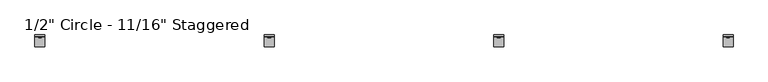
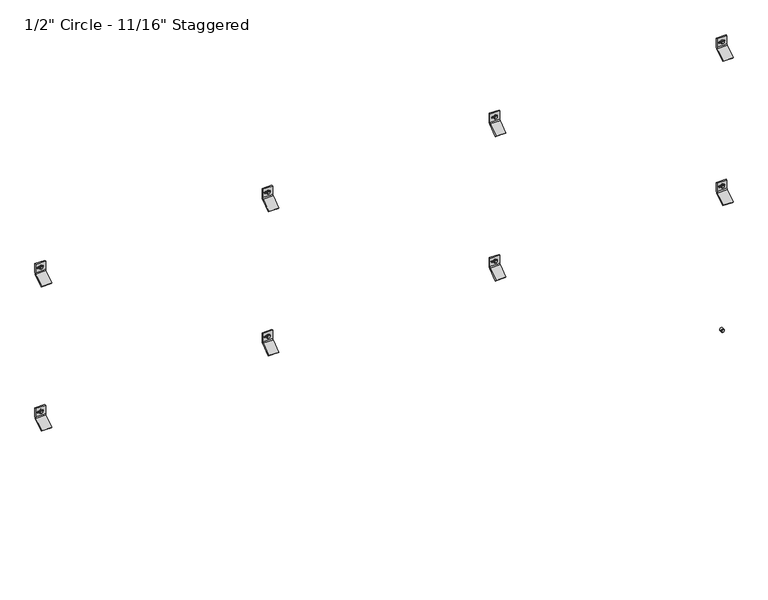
"""IFC4 building model written with IfcOpenShell, lengths in millimetres: plate geometry."""

from ifc_helpers import new_model, si_unit, point, frame, frame_2d, origin, place, context, project, spatial, polyline, circle_curve, trimmed, segment, composite_curve, outline, extrude, source, transform, mapped, element, save
from ifc_brep_helpers import plane_surface, cylinder_surface, revolved_surface, advanced_brep


def plate_f7e0e17a(model_context):
    return source(origin(), model_context, "Body", "SolidModel", [
        extrude(outline(polyline([(1923.7554341, 1299.9070034), (1919.4097216, 1302.4160017), (1919.4097216, 1307.4339983), (1923.7554341, 1309.9429966), (1928.1011466, 1307.4339983), (1928.1011466, 1302.4160017), (1923.7554341, 1299.9070034)])), frame((0.0, -58.7607779, 0.0), z_axis=(0.0, 1.0, 0.0), x_axis=(0.0, 0.0, 1.0)), (0.0, 0.0, 1.0), 11.1357779),
        extrude(outline(composite_curve([segment(trimmed(circle_curve(frame_2d((1923.8487411, 1304.925)), 6.35), [point((1923.8487411, 1311.275))], [point((1923.8487411, 1298.575))], False, "CARTESIAN"), True, "CONTINUOUS"), segment(trimmed(circle_curve(frame_2d((1923.8487411, 1304.925)), 6.35), [point((1923.8487411, 1298.575))], [point((1923.8487411, 1311.275))], False, "CARTESIAN"), True, "CONTINUOUS")], self_intersect=False)), frame((0.0, -57.0817743, 0.0), z_axis=(0.0, 1.0, 0.0), x_axis=(0.0, 0.0, 1.0)), (0.0, 0.0, 1.0), 9.4567743),
        advanced_brep(
        [(1285.875, -47.625, 1906.606122), (1285.875, -51.2819443, 1898.9440896), (1285.875, -89.5163624, 1872.1720618), (1285.875, -92.9330442, 1875.5887436), (1285.875, -54.3526876, 1902.6030001), (1285.875, -52.4002, 1906.6061929), (1285.875, -52.4002, 1940.7988072), (1285.875, -47.625, 1940.7988072), (1323.975, -47.625, 1906.606122), (1323.975, -47.625, 1940.7988072), (1323.975, -52.4002, 1940.7988072), (1323.975, -52.4002, 1906.6061929), (1323.975, -54.3526876, 1902.6030001), (1323.975, -92.9330442, 1875.5887436), (1323.975, -89.5163624, 1872.1720618), (1323.975, -51.2819443, 1898.9440896), (1311.6661889, -52.4002, 1926.753591), (1311.6661889, -52.4002, 1920.403591), (1295.4383287, -52.4002, 1920.403591), (1295.4383287, -52.4002, 1926.753591), (1311.6661889, -47.625, 1920.403591), (1311.6661889, -47.625, 1926.753591), (1295.4383287, -47.625, 1926.753591), (1295.4383287, -47.625, 1920.403591)],
        [
            (0, 1, circle_curve(frame((1285.875, -57.4802202, 1906.606122), z_axis=(-1.0, 0.0, 0.0), x_axis=(0.0, -1.0, 0.0)), 9.8552202)),
            (1, 2),
            (2, 3),
            (3, 4),
            (4, 5, circle_curve(frame((1285.875, -57.4803246, 1906.6061929), z_axis=(1.0, 0.0, 0.0), x_axis=(0.0, -1.0, 0.0)), 5.0801246)),
            (5, 6),
            (6, 7),
            (7, 0),
            (8, 9),
            (9, 10),
            (10, 11),
            (11, 12, circle_curve(frame((1323.975, -57.4803246, 1906.6061929), z_axis=(-1.0, 0.0, 0.0), x_axis=(0.0, -1.0, 0.0)), 5.0801246)),
            (12, 13),
            (13, 14),
            (14, 15),
            (15, 8, circle_curve(frame((1323.975, -57.4802202, 1906.606122), z_axis=(1.0, 0.0, 0.0), x_axis=(0.0, -1.0, 0.0)), 9.8552202)),
            (4, 12),
            (11, 5),
            (10, 6),
            (16, 17, circle_curve(frame((1311.6661889, -52.4002, 1923.578591), z_axis=(0.0, 1.0, 0.0), x_axis=(0.0, 0.0, -1.0)), 3.175)),
            (17, 18),
            (18, 19, circle_curve(frame((1295.4383287, -52.4002, 1923.578591), z_axis=(0.0, 1.0, 0.0), x_axis=(0.0, 0.0, -1.0)), 3.175)),
            (19, 16),
            (9, 7),
            (8, 0),
            (20, 21, circle_curve(frame((1311.6661889, -47.625, 1923.578591), z_axis=(0.0, -1.0, 0.0), x_axis=(0.0, 0.0, -1.0)), 3.175)),
            (21, 22),
            (22, 23, circle_curve(frame((1295.4383287, -47.625, 1923.578591), z_axis=(0.0, -1.0, 0.0), x_axis=(0.0, 0.0, -1.0)), 3.175)),
            (23, 20),
            (15, 1),
            (20, 17),
            (16, 21),
            (19, 22),
            (18, 23),
            (14, 2),
            (13, 3),
        ],
        [
            plane_surface(frame((1285.875, -67.3354404, 1906.606122), z_axis=(-1.0, 0.0, 0.0), x_axis=(0.0, 0.0, 1.0))),
            plane_surface(frame((1323.975, -67.3354404, 1906.606122), z_axis=(1.0, 0.0, 0.0), x_axis=(0.0, 0.0, -1.0))),
            revolved_surface(polyline([(1323.975, -62.5604492, 1906.6061929), (1285.875, -62.5604492, 1906.6061929)]), (1323.975, -57.4803246, 1906.6061929), (1.0, 0.0, 0.0)),
            plane_surface(frame((1285.875, -52.4002, 1906.6061929), z_axis=(0.0, -1.0, 0.0), x_axis=(1.0, 0.0, 0.0))),
            plane_surface(frame((1285.875, -52.4002, 1940.7988072), z_axis=(0.0, 0.0, 1.0), x_axis=(1.0, 0.0, 0.0))),
            plane_surface(frame((1285.875, -47.625, 1940.7988072), z_axis=(0.0, 1.0, 6.99569853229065e-12), x_axis=(1.0, 0.0, 0.0))),
            cylinder_surface(frame((1323.975, -57.4802202, 1906.606122), z_axis=(-1.0, 0.0, 0.0), x_axis=(0.0, -1.0, 0.0)), 9.8552202),
            revolved_surface(polyline([(1311.6661889, -52.4002, 1920.403591), (1311.6661889, -47.625, 1920.403591)]), (1311.6661889, -25.6669948, 1923.578591), (0.0, -1.0, 0.0)),
            plane_surface(frame((1311.6661889, -86.677982, 1926.753591), z_axis=(0.0, 0.0, -1.0), x_axis=(0.0, 1.0, 0.0))),
            revolved_surface(polyline([(1295.4383287, -52.4002, 1920.403591), (1295.4383287, -47.625, 1920.403591)]), (1295.4383287, -25.6669948, 1923.578591), (0.0, -1.0, 0.0)),
            plane_surface(frame((1295.4383287, -86.677982, 1920.403591), z_axis=(-2.7237720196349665e-11, 0.0, 1.0), x_axis=(0.0, 1.0, 0.0))),
            plane_surface(frame((1285.875, -51.2819443, 1898.9440896), z_axis=(0.0, 0.5735764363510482, -0.8191520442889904), x_axis=(1.0, 0.0, 0.0))),
            plane_surface(frame((1285.875, -89.5163624, 1872.1720618), z_axis=(0.0, -0.7071067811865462, -0.7071067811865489), x_axis=(1.0, 0.0, 0.0))),
            plane_surface(frame((1285.875, -92.9330442, 1875.5887436), z_axis=(0.0, -0.5735764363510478, 0.8191520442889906), x_axis=(1.0, 0.0, 0.0))),
        ],
        [
            (0, [[1, 2, 3, 4, 5, 6, 7, 8]]),
            (1, [[9, 10, 11, 12, 13, 14, 15, 16]]),
            (2, [[-5, 17, -12, 18]]),
            (3, [[-6, -18, -11, 19], [20, 21, 22, 23]]),
            (4, [[-7, -19, -10, 24]]),
            (5, [[-8, -24, -9, 25], [26, 27, 28, 29]]),
            (6, [[-1, -25, -16, 30]]),
            (7, [[31, -20, 32, -26]]),
            (8, [[-32, -23, 33, -27]]),
            (9, [[-33, -22, 34, -28]]),
            (10, [[-31, -29, -34, -21]]),
            (11, [[-2, -30, -15, 35]]),
            (12, [[-3, -35, -14, 36]]),
            (13, [[-4, -36, -13, -17]]),
        ],
    ),
        extrude(outline(polyline([(1923.7554341, 429.9570034), (1919.4097216, 432.4660017), (1919.4097216, 437.4839983), (1923.7554341, 439.9929966), (1928.1011466, 437.4839983), (1928.1011466, 432.4660017), (1923.7554341, 429.9570034)])), frame((0.0, -58.7607779, 0.0), z_axis=(0.0, 1.0, 0.0), x_axis=(0.0, 0.0, 1.0)), (0.0, 0.0, 1.0), 11.1357779),
        extrude(outline(composite_curve([segment(trimmed(circle_curve(frame_2d((1923.8487411, 434.975)), 6.35), [point((1923.8487411, 441.325))], [point((1923.8487411, 428.625))], False, "CARTESIAN"), True, "CONTINUOUS"), segment(trimmed(circle_curve(frame_2d((1923.8487411, 434.975)), 6.35), [point((1923.8487411, 428.625))], [point((1923.8487411, 441.325))], False, "CARTESIAN"), True, "CONTINUOUS")], self_intersect=False)), frame((0.0, -57.0817743, 0.0), z_axis=(0.0, 1.0, 0.0), x_axis=(0.0, 0.0, 1.0)), (0.0, 0.0, 1.0), 9.4567743),
        advanced_brep(
        [(415.925, -47.625, 1906.606122), (415.925, -51.2819443, 1898.9440896), (415.925, -89.5163624, 1872.1720618), (415.925, -92.9330442, 1875.5887436), (415.925, -54.3526876, 1902.6030001), (415.925, -52.4002, 1906.6061929), (415.925, -52.4002, 1940.7988072), (415.925, -47.625, 1940.7988072), (454.025, -47.625, 1906.606122), (454.025, -47.625, 1940.7988072), (454.025, -52.4002, 1940.7988072), (454.025, -52.4002, 1906.6061929), (454.025, -54.3526876, 1902.6030001), (454.025, -92.9330442, 1875.5887436), (454.025, -89.5163624, 1872.1720618), (454.025, -51.2819443, 1898.9440896), (441.7161889, -52.4002, 1926.753591), (441.7161889, -52.4002, 1920.403591), (425.4883287, -52.4002, 1920.403591), (425.4883287, -52.4002, 1926.753591), (441.7161889, -47.625, 1920.403591), (441.7161889, -47.625, 1926.753591), (425.4883287, -47.625, 1926.753591), (425.4883287, -47.625, 1920.403591)],
        [
            (0, 1, circle_curve(frame((415.925, -57.4802202, 1906.606122), z_axis=(-1.0, 0.0, 0.0), x_axis=(0.0, -1.0, 0.0)), 9.8552202)),
            (1, 2),
            (2, 3),
            (3, 4),
            (4, 5, circle_curve(frame((415.925, -57.4803246, 1906.6061929), z_axis=(1.0, 0.0, 0.0), x_axis=(0.0, -1.0, 0.0)), 5.0801246)),
            (5, 6),
            (6, 7),
            (7, 0),
            (8, 9),
            (9, 10),
            (10, 11),
            (11, 12, circle_curve(frame((454.025, -57.4803246, 1906.6061929), z_axis=(-1.0, 0.0, 0.0), x_axis=(0.0, -1.0, 0.0)), 5.0801246)),
            (12, 13),
            (13, 14),
            (14, 15),
            (15, 8, circle_curve(frame((454.025, -57.4802202, 1906.606122), z_axis=(1.0, 0.0, 0.0), x_axis=(0.0, -1.0, 0.0)), 9.8552202)),
            (4, 12),
            (11, 5),
            (10, 6),
            (16, 17, circle_curve(frame((441.7161889, -52.4002, 1923.578591), z_axis=(0.0, 1.0, 0.0), x_axis=(0.0, 0.0, -1.0)), 3.175)),
            (17, 18),
            (18, 19, circle_curve(frame((425.4883287, -52.4002, 1923.578591), z_axis=(0.0, 1.0, 0.0), x_axis=(0.0, 0.0, -1.0)), 3.175)),
            (19, 16),
            (9, 7),
            (8, 0),
            (20, 21, circle_curve(frame((441.7161889, -47.625, 1923.578591), z_axis=(0.0, -1.0, 0.0), x_axis=(0.0, 0.0, -1.0)), 3.175)),
            (21, 22),
            (22, 23, circle_curve(frame((425.4883287, -47.625, 1923.578591), z_axis=(0.0, -1.0, 0.0), x_axis=(0.0, 0.0, -1.0)), 3.175)),
            (23, 20),
            (15, 1),
            (20, 17),
            (16, 21),
            (19, 22),
            (18, 23),
            (14, 2),
            (13, 3),
        ],
        [
            plane_surface(frame((415.925, -67.3354404, 1906.606122), z_axis=(-1.0, 0.0, 0.0), x_axis=(0.0, 0.0, 1.0))),
            plane_surface(frame((454.025, -67.3354404, 1906.606122), z_axis=(1.0, 0.0, 0.0), x_axis=(0.0, 0.0, -1.0))),
            revolved_surface(polyline([(454.025, -62.5604492, 1906.6061929), (415.925, -62.5604492, 1906.6061929)]), (454.025, -57.4803246, 1906.6061929), (1.0, 0.0, 0.0)),
            plane_surface(frame((415.925, -52.4002, 1906.6061929), z_axis=(0.0, -1.0, 0.0), x_axis=(1.0, 0.0, 0.0))),
            plane_surface(frame((415.925, -52.4002, 1940.7988072), z_axis=(0.0, 0.0, 1.0), x_axis=(1.0, 0.0, 0.0))),
            plane_surface(frame((415.925, -47.625, 1940.7988072), z_axis=(0.0, 1.0, 6.99569853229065e-12), x_axis=(1.0, 0.0, 0.0))),
            cylinder_surface(frame((454.025, -57.4802202, 1906.606122), z_axis=(-1.0, 0.0, 0.0), x_axis=(0.0, -1.0, 0.0)), 9.8552202),
            revolved_surface(polyline([(441.7161889, -52.4002, 1920.403591), (441.7161889, -47.625, 1920.403591)]), (441.7161889, -25.6669948, 1923.578591), (0.0, -1.0, 0.0)),
            plane_surface(frame((441.7161889, -86.677982, 1926.753591), z_axis=(0.0, 0.0, -1.0), x_axis=(0.0, 1.0, 0.0))),
            revolved_surface(polyline([(425.4883287, -52.4002, 1920.403591), (425.4883287, -47.625, 1920.403591)]), (425.4883287, -25.6669948, 1923.578591), (0.0, -1.0, 0.0)),
            plane_surface(frame((425.4883287, -86.677982, 1920.403591), z_axis=(-2.7237720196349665e-11, 0.0, 1.0), x_axis=(0.0, 1.0, 0.0))),
            plane_surface(frame((415.925, -51.2819443, 1898.9440896), z_axis=(0.0, 0.5735764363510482, -0.8191520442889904), x_axis=(1.0, 0.0, 0.0))),
            plane_surface(frame((415.925, -89.5163624, 1872.1720618), z_axis=(0.0, -0.7071067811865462, -0.7071067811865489), x_axis=(1.0, 0.0, 0.0))),
            plane_surface(frame((415.925, -92.9330442, 1875.5887436), z_axis=(0.0, -0.5735764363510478, 0.8191520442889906), x_axis=(1.0, 0.0, 0.0))),
        ],
        [
            (0, [[1, 2, 3, 4, 5, 6, 7, 8]]),
            (1, [[9, 10, 11, 12, 13, 14, 15, 16]]),
            (2, [[-5, 17, -12, 18]]),
            (3, [[-6, -18, -11, 19], [20, 21, 22, 23]]),
            (4, [[-7, -19, -10, 24]]),
            (5, [[-8, -24, -9, 25], [26, 27, 28, 29]]),
            (6, [[-1, -25, -16, 30]]),
            (7, [[31, -20, 32, -26]]),
            (8, [[-32, -23, 33, -27]]),
            (9, [[-33, -22, 34, -28]]),
            (10, [[-31, -29, -34, -21]]),
            (11, [[-2, -30, -15, 35]]),
            (12, [[-3, -35, -14, 36]]),
            (13, [[-4, -36, -13, -17]]),
        ],
    ),
        extrude(outline(polyline([(1923.7554341, -439.9929966), (1919.4097216, -437.4839983), (1919.4097216, -432.4660017), (1923.7554341, -429.9570034), (1928.1011466, -432.4660017), (1928.1011466, -437.4839983), (1923.7554341, -439.9929966)])), frame((0.0, -58.7607779, 0.0), z_axis=(0.0, 1.0, 0.0), x_axis=(0.0, 0.0, 1.0)), (0.0, 0.0, 1.0), 11.1357779),
        extrude(outline(composite_curve([segment(trimmed(circle_curve(frame_2d((1923.8487411, -434.975)), 6.35), [point((1923.8487411, -428.625))], [point((1923.8487411, -441.325))], False, "CARTESIAN"), True, "CONTINUOUS"), segment(trimmed(circle_curve(frame_2d((1923.8487411, -434.975)), 6.35), [point((1923.8487411, -441.325))], [point((1923.8487411, -428.625))], False, "CARTESIAN"), True, "CONTINUOUS")], self_intersect=False)), frame((0.0, -57.0817743, 0.0), z_axis=(0.0, 1.0, 0.0), x_axis=(0.0, 0.0, 1.0)), (0.0, 0.0, 1.0), 9.4567743),
        advanced_brep(
        [(-454.025, -47.625, 1906.606122), (-454.025, -51.2819443, 1898.9440896), (-454.025, -89.5163624, 1872.1720618), (-454.025, -92.9330442, 1875.5887436), (-454.025, -54.3526876, 1902.6030001), (-454.025, -52.4002, 1906.6061929), (-454.025, -52.4002, 1940.7988072), (-454.025, -47.625, 1940.7988072), (-415.925, -47.625, 1906.606122), (-415.925, -47.625, 1940.7988072), (-415.925, -52.4002, 1940.7988072), (-415.925, -52.4002, 1906.6061929), (-415.925, -54.3526876, 1902.6030001), (-415.925, -92.9330442, 1875.5887436), (-415.925, -89.5163624, 1872.1720618), (-415.925, -51.2819443, 1898.9440896), (-428.2338111, -52.4002, 1926.753591), (-428.2338111, -52.4002, 1920.403591), (-444.4616713, -52.4002, 1920.403591), (-444.4616713, -52.4002, 1926.753591), (-428.2338111, -47.625, 1920.403591), (-428.2338111, -47.625, 1926.753591), (-444.4616713, -47.625, 1926.753591), (-444.4616713, -47.625, 1920.403591)],
        [
            (0, 1, circle_curve(frame((-454.025, -57.4802202, 1906.606122), z_axis=(-1.0, 0.0, 0.0), x_axis=(0.0, -1.0, 0.0)), 9.8552202)),
            (1, 2),
            (2, 3),
            (3, 4),
            (4, 5, circle_curve(frame((-454.025, -57.4803246, 1906.6061929), z_axis=(1.0, 0.0, 0.0), x_axis=(0.0, -1.0, 0.0)), 5.0801246)),
            (5, 6),
            (6, 7),
            (7, 0),
            (8, 9),
            (9, 10),
            (10, 11),
            (11, 12, circle_curve(frame((-415.925, -57.4803246, 1906.6061929), z_axis=(-1.0, 0.0, 0.0), x_axis=(0.0, -1.0, 0.0)), 5.0801246)),
            (12, 13),
            (13, 14),
            (14, 15),
            (15, 8, circle_curve(frame((-415.925, -57.4802202, 1906.606122), z_axis=(1.0, 0.0, 0.0), x_axis=(0.0, -1.0, 0.0)), 9.8552202)),
            (4, 12),
            (11, 5),
            (10, 6),
            (16, 17, circle_curve(frame((-428.2338111, -52.4002, 1923.578591), z_axis=(0.0, 1.0, 0.0), x_axis=(0.0, 0.0, -1.0)), 3.175)),
            (17, 18),
            (18, 19, circle_curve(frame((-444.4616713, -52.4002, 1923.578591), z_axis=(0.0, 1.0, 0.0), x_axis=(0.0, 0.0, -1.0)), 3.175)),
            (19, 16),
            (9, 7),
            (8, 0),
            (20, 21, circle_curve(frame((-428.2338111, -47.625, 1923.578591), z_axis=(0.0, -1.0, 0.0), x_axis=(0.0, 0.0, -1.0)), 3.175)),
            (21, 22),
            (22, 23, circle_curve(frame((-444.4616713, -47.625, 1923.578591), z_axis=(0.0, -1.0, 0.0), x_axis=(0.0, 0.0, -1.0)), 3.175)),
            (23, 20),
            (15, 1),
            (20, 17),
            (16, 21),
            (19, 22),
            (18, 23),
            (14, 2),
            (13, 3),
        ],
        [
            plane_surface(frame((-454.025, -67.3354404, 1906.606122), z_axis=(-1.0, 0.0, 0.0), x_axis=(0.0, 0.0, 1.0))),
            plane_surface(frame((-415.925, -67.3354404, 1906.606122), z_axis=(1.0, 0.0, 0.0), x_axis=(0.0, 0.0, -1.0))),
            revolved_surface(polyline([(-415.925, -62.5604492, 1906.6061929), (-454.025, -62.5604492, 1906.6061929)]), (-415.925, -57.4803246, 1906.6061929), (1.0, 0.0, 0.0)),
            plane_surface(frame((-454.025, -52.4002, 1906.6061929), z_axis=(0.0, -1.0, 0.0), x_axis=(1.0, 0.0, 0.0))),
            plane_surface(frame((-454.025, -52.4002, 1940.7988072), z_axis=(0.0, 0.0, 1.0), x_axis=(1.0, 0.0, 0.0))),
            plane_surface(frame((-454.025, -47.625, 1940.7988072), z_axis=(0.0, 1.0, 6.99569853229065e-12), x_axis=(1.0, 0.0, 0.0))),
            cylinder_surface(frame((-415.925, -57.4802202, 1906.606122), z_axis=(-1.0, 0.0, 0.0), x_axis=(0.0, -1.0, 0.0)), 9.8552202),
            revolved_surface(polyline([(-428.2338111, -52.4002, 1920.403591), (-428.2338111, -47.625, 1920.403591)]), (-428.2338111, -25.6669948, 1923.578591), (0.0, -1.0, 0.0)),
            plane_surface(frame((-428.2338111, -86.677982, 1926.753591), z_axis=(0.0, 0.0, -1.0), x_axis=(0.0, 1.0, 0.0))),
            revolved_surface(polyline([(-444.4616713, -52.4002, 1920.403591), (-444.4616713, -47.625, 1920.403591)]), (-444.4616713, -25.6669948, 1923.578591), (0.0, -1.0, 0.0)),
            plane_surface(frame((-444.4616713, -86.677982, 1920.403591), z_axis=(-2.7237720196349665e-11, 0.0, 1.0), x_axis=(0.0, 1.0, 0.0))),
            plane_surface(frame((-454.025, -51.2819443, 1898.9440896), z_axis=(0.0, 0.5735764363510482, -0.8191520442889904), x_axis=(1.0, 0.0, 0.0))),
            plane_surface(frame((-454.025, -89.5163624, 1872.1720618), z_axis=(0.0, -0.7071067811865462, -0.7071067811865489), x_axis=(1.0, 0.0, 0.0))),
            plane_surface(frame((-454.025, -92.9330442, 1875.5887436), z_axis=(0.0, -0.5735764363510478, 0.8191520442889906), x_axis=(1.0, 0.0, 0.0))),
        ],
        [
            (0, [[1, 2, 3, 4, 5, 6, 7, 8]]),
            (1, [[9, 10, 11, 12, 13, 14, 15, 16]]),
            (2, [[-5, 17, -12, 18]]),
            (3, [[-6, -18, -11, 19], [20, 21, 22, 23]]),
            (4, [[-7, -19, -10, 24]]),
            (5, [[-8, -24, -9, 25], [26, 27, 28, 29]]),
            (6, [[-1, -25, -16, 30]]),
            (7, [[31, -20, 32, -26]]),
            (8, [[-32, -23, 33, -27]]),
            (9, [[-33, -22, 34, -28]]),
            (10, [[-31, -29, -34, -21]]),
            (11, [[-2, -30, -15, 35]]),
            (12, [[-3, -35, -14, 36]]),
            (13, [[-4, -36, -13, -17]]),
        ],
    ),
        extrude(outline(polyline([(1923.7554341, -1309.9429966), (1919.4097216, -1307.4339983), (1919.4097216, -1302.4160017), (1923.7554341, -1299.9070034), (1928.1011466, -1302.4160017), (1928.1011466, -1307.4339983), (1923.7554341, -1309.9429966)])), frame((0.0, -58.7607779, 0.0), z_axis=(0.0, 1.0, 0.0), x_axis=(0.0, 0.0, 1.0)), (0.0, 0.0, 1.0), 11.1357779),
        extrude(outline(composite_curve([segment(trimmed(circle_curve(frame_2d((1923.8487411, -1304.925)), 6.35), [point((1923.8487411, -1298.575))], [point((1923.8487411, -1311.275))], False, "CARTESIAN"), True, "CONTINUOUS"), segment(trimmed(circle_curve(frame_2d((1923.8487411, -1304.925)), 6.35), [point((1923.8487411, -1311.275))], [point((1923.8487411, -1298.575))], False, "CARTESIAN"), True, "CONTINUOUS")], self_intersect=False)), frame((0.0, -57.0817743, 0.0), z_axis=(0.0, 1.0, 0.0), x_axis=(0.0, 0.0, 1.0)), (0.0, 0.0, 1.0), 9.4567743),
        advanced_brep(
        [(-1323.975, -47.625, 1906.606122), (-1323.975, -51.2819443, 1898.9440896), (-1323.975, -89.5163624, 1872.1720618), (-1323.975, -92.9330442, 1875.5887436), (-1323.975, -54.3526876, 1902.6030001), (-1323.975, -52.4002, 1906.6061929), (-1323.975, -52.4002, 1940.7988072), (-1323.975, -47.625, 1940.7988072), (-1285.875, -47.625, 1906.606122), (-1285.875, -47.625, 1940.7988072), (-1285.875, -52.4002, 1940.7988072), (-1285.875, -52.4002, 1906.6061929), (-1285.875, -54.3526876, 1902.6030001), (-1285.875, -92.9330442, 1875.5887436), (-1285.875, -89.5163624, 1872.1720618), (-1285.875, -51.2819443, 1898.9440896), (-1298.1838111, -52.4002, 1926.753591), (-1298.1838111, -52.4002, 1920.403591), (-1314.4116713, -52.4002, 1920.403591), (-1314.4116713, -52.4002, 1926.753591), (-1298.1838111, -47.625, 1920.403591), (-1298.1838111, -47.625, 1926.753591), (-1314.4116713, -47.625, 1926.753591), (-1314.4116713, -47.625, 1920.403591)],
        [
            (0, 1, circle_curve(frame((-1323.975, -57.4802202, 1906.606122), z_axis=(-1.0, 0.0, 0.0), x_axis=(0.0, -1.0, 0.0)), 9.8552202)),
            (1, 2),
            (2, 3),
            (3, 4),
            (4, 5, circle_curve(frame((-1323.975, -57.4803246, 1906.6061929), z_axis=(1.0, 0.0, 0.0), x_axis=(0.0, -1.0, 0.0)), 5.0801246)),
            (5, 6),
            (6, 7),
            (7, 0),
            (8, 9),
            (9, 10),
            (10, 11),
            (11, 12, circle_curve(frame((-1285.875, -57.4803246, 1906.6061929), z_axis=(-1.0, 0.0, 0.0), x_axis=(0.0, -1.0, 0.0)), 5.0801246)),
            (12, 13),
            (13, 14),
            (14, 15),
            (15, 8, circle_curve(frame((-1285.875, -57.4802202, 1906.606122), z_axis=(1.0, 0.0, 0.0), x_axis=(0.0, -1.0, 0.0)), 9.8552202)),
            (4, 12),
            (11, 5),
            (10, 6),
            (16, 17, circle_curve(frame((-1298.1838111, -52.4002, 1923.578591), z_axis=(0.0, 1.0, 0.0), x_axis=(0.0, 0.0, -1.0)), 3.175)),
            (17, 18),
            (18, 19, circle_curve(frame((-1314.4116713, -52.4002, 1923.578591), z_axis=(0.0, 1.0, 0.0), x_axis=(0.0, 0.0, -1.0)), 3.175)),
            (19, 16),
            (9, 7),
            (8, 0),
            (20, 21, circle_curve(frame((-1298.1838111, -47.625, 1923.578591), z_axis=(0.0, -1.0, 0.0), x_axis=(0.0, 0.0, -1.0)), 3.175)),
            (21, 22),
            (22, 23, circle_curve(frame((-1314.4116713, -47.625, 1923.578591), z_axis=(0.0, -1.0, 0.0), x_axis=(0.0, 0.0, -1.0)), 3.175)),
            (23, 20),
            (15, 1),
            (20, 17),
            (16, 21),
            (19, 22),
            (18, 23),
            (14, 2),
            (13, 3),
        ],
        [
            plane_surface(frame((-1323.975, -67.3354404, 1906.606122), z_axis=(-1.0, 0.0, 0.0), x_axis=(0.0, 0.0, 1.0))),
            plane_surface(frame((-1285.875, -67.3354404, 1906.606122), z_axis=(1.0, 0.0, 0.0), x_axis=(0.0, 0.0, -1.0))),
            revolved_surface(polyline([(-1285.875, -62.5604492, 1906.6061929), (-1323.975, -62.5604492, 1906.6061929)]), (-1285.875, -57.4803246, 1906.6061929), (1.0, 0.0, 0.0)),
            plane_surface(frame((-1323.975, -52.4002, 1906.6061929), z_axis=(0.0, -1.0, 0.0), x_axis=(1.0, 0.0, 0.0))),
            plane_surface(frame((-1323.975, -52.4002, 1940.7988072), z_axis=(0.0, 0.0, 1.0), x_axis=(1.0, 0.0, 0.0))),
            plane_surface(frame((-1323.975, -47.625, 1940.7988072), z_axis=(0.0, 1.0, 6.99569853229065e-12), x_axis=(1.0, 0.0, 0.0))),
            cylinder_surface(frame((-1285.875, -57.4802202, 1906.606122), z_axis=(-1.0, 0.0, 0.0), x_axis=(0.0, -1.0, 0.0)), 9.8552202),
            revolved_surface(polyline([(-1298.1838111, -52.4002, 1920.403591), (-1298.1838111, -47.625, 1920.403591)]), (-1298.1838111, -25.6669948, 1923.578591), (0.0, -1.0, 0.0)),
            plane_surface(frame((-1298.1838111, -86.677982, 1926.753591), z_axis=(0.0, 0.0, -1.0), x_axis=(0.0, 1.0, 0.0))),
            revolved_surface(polyline([(-1314.4116713, -52.4002, 1920.403591), (-1314.4116713, -47.625, 1920.403591)]), (-1314.4116713, -25.6669948, 1923.578591), (0.0, -1.0, 0.0)),
            plane_surface(frame((-1314.4116713, -86.677982, 1920.403591), z_axis=(-2.7237720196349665e-11, 0.0, 1.0), x_axis=(0.0, 1.0, 0.0))),
            plane_surface(frame((-1323.975, -51.2819443, 1898.9440896), z_axis=(0.0, 0.5735764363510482, -0.8191520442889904), x_axis=(1.0, 0.0, 0.0))),
            plane_surface(frame((-1323.975, -89.5163624, 1872.1720618), z_axis=(0.0, -0.7071067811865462, -0.7071067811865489), x_axis=(1.0, 0.0, 0.0))),
            plane_surface(frame((-1323.975, -92.9330442, 1875.5887436), z_axis=(0.0, -0.5735764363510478, 0.8191520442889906), x_axis=(1.0, 0.0, 0.0))),
        ],
        [
            (0, [[1, 2, 3, 4, 5, 6, 7, 8]]),
            (1, [[9, 10, 11, 12, 13, 14, 15, 16]]),
            (2, [[-5, 17, -12, 18]]),
            (3, [[-6, -18, -11, 19], [20, 21, 22, 23]]),
            (4, [[-7, -19, -10, 24]]),
            (5, [[-8, -24, -9, 25], [26, 27, 28, 29]]),
            (6, [[-1, -25, -16, 30]]),
            (7, [[31, -20, 32, -26]]),
            (8, [[-32, -23, 33, -27]]),
            (9, [[-33, -22, 34, -28]]),
            (10, [[-31, -29, -34, -21]]),
            (11, [[-2, -30, -15, 35]]),
            (12, [[-3, -35, -14, 36]]),
            (13, [[-4, -36, -13, -17]]),
        ],
    ),
        extrude(outline(polyline([(1339.1301335, 1299.9070034), (1334.784421, 1302.4160017), (1334.784421, 1307.4339983), (1339.1301335, 1309.9429966), (1343.475846, 1307.4339983), (1343.475846, 1302.4160017), (1339.1301335, 1299.9070034)])), frame((0.0, -58.7607779, 0.0), z_axis=(0.0, 1.0, 0.0), x_axis=(0.0, 0.0, 1.0)), (0.0, 0.0, 1.0), 11.1357779),
        extrude(outline(composite_curve([segment(trimmed(circle_curve(frame_2d((1339.2234405, 1304.925)), 6.35), [point((1339.2234405, 1311.275))], [point((1339.2234405, 1298.575))], False, "CARTESIAN"), True, "CONTINUOUS"), segment(trimmed(circle_curve(frame_2d((1339.2234405, 1304.925)), 6.35), [point((1339.2234405, 1298.575))], [point((1339.2234405, 1311.275))], False, "CARTESIAN"), True, "CONTINUOUS")], self_intersect=False)), frame((0.0, -57.0817743, 0.0), z_axis=(0.0, 1.0, 0.0), x_axis=(0.0, 0.0, 1.0)), (0.0, 0.0, 1.0), 9.4567743),
        advanced_brep(
        [(1285.875, -47.625, 1321.9808214), (1285.875, -51.2819443, 1314.318789), (1285.875, -89.5163624, 1287.5467612), (1285.875, -92.9330442, 1290.963443), (1285.875, -54.3526876, 1317.9776995), (1285.875, -52.4002, 1321.9808923), (1285.875, -52.4002, 1356.1735066), (1285.875, -47.625, 1356.1735066), (1323.975, -47.625, 1321.9808214), (1323.975, -47.625, 1356.1735066), (1323.975, -52.4002, 1356.1735066), (1323.975, -52.4002, 1321.9808923), (1323.975, -54.3526876, 1317.9776995), (1323.975, -92.9330442, 1290.963443), (1323.975, -89.5163624, 1287.5467612), (1323.975, -51.2819443, 1314.318789), (1311.6661889, -52.4002, 1342.1282903), (1311.6661889, -52.4002, 1335.7782903), (1295.4383287, -52.4002, 1335.7782903), (1295.4383287, -52.4002, 1342.1282903), (1311.6661889, -47.625, 1335.7782903), (1311.6661889, -47.625, 1342.1282903), (1295.4383287, -47.625, 1342.1282903), (1295.4383287, -47.625, 1335.7782903)],
        [
            (0, 1, circle_curve(frame((1285.875, -57.4802202, 1321.9808214), z_axis=(-1.0, 0.0, 0.0), x_axis=(0.0, -1.0, 0.0)), 9.8552202)),
            (1, 2),
            (2, 3),
            (3, 4),
            (4, 5, circle_curve(frame((1285.875, -57.4803246, 1321.9808923), z_axis=(1.0, 0.0, 0.0), x_axis=(0.0, -1.0, 0.0)), 5.0801246)),
            (5, 6),
            (6, 7),
            (7, 0),
            (8, 9),
            (9, 10),
            (10, 11),
            (11, 12, circle_curve(frame((1323.975, -57.4803246, 1321.9808923), z_axis=(-1.0, 0.0, 0.0), x_axis=(0.0, -1.0, 0.0)), 5.0801246)),
            (12, 13),
            (13, 14),
            (14, 15),
            (15, 8, circle_curve(frame((1323.975, -57.4802202, 1321.9808214), z_axis=(1.0, 0.0, 0.0), x_axis=(0.0, -1.0, 0.0)), 9.8552202)),
            (4, 12),
            (11, 5),
            (10, 6),
            (16, 17, circle_curve(frame((1311.6661889, -52.4002, 1338.9532903), z_axis=(0.0, 1.0, 0.0), x_axis=(0.0, 0.0, -1.0)), 3.175)),
            (17, 18),
            (18, 19, circle_curve(frame((1295.4383287, -52.4002, 1338.9532903), z_axis=(0.0, 1.0, 0.0), x_axis=(0.0, 0.0, -1.0)), 3.175)),
            (19, 16),
            (9, 7),
            (8, 0),
            (20, 21, circle_curve(frame((1311.6661889, -47.625, 1338.9532903), z_axis=(0.0, -1.0, 0.0), x_axis=(0.0, 0.0, -1.0)), 3.175)),
            (21, 22),
            (22, 23, circle_curve(frame((1295.4383287, -47.625, 1338.9532903), z_axis=(0.0, -1.0, 0.0), x_axis=(0.0, 0.0, -1.0)), 3.175)),
            (23, 20),
            (15, 1),
            (20, 17),
            (16, 21),
            (19, 22),
            (18, 23),
            (14, 2),
            (13, 3),
        ],
        [
            plane_surface(frame((1285.875, -67.3354404, 1321.9808214), z_axis=(-1.0, 0.0, 0.0), x_axis=(0.0, 0.0, 1.0))),
            plane_surface(frame((1323.975, -67.3354404, 1321.9808214), z_axis=(1.0, 0.0, 0.0), x_axis=(0.0, 0.0, -1.0))),
            revolved_surface(polyline([(1323.975, -62.5604492, 1321.9808923), (1285.875, -62.5604492, 1321.9808923)]), (1323.975, -57.4803246, 1321.9808923), (1.0, 0.0, 0.0)),
            plane_surface(frame((1285.875, -52.4002, 1321.9808923), z_axis=(0.0, -1.0, 0.0), x_axis=(1.0, 0.0, 0.0))),
            plane_surface(frame((1285.875, -52.4002, 1356.1735066), z_axis=(0.0, 0.0, 1.0), x_axis=(1.0, 0.0, 0.0))),
            plane_surface(frame((1285.875, -47.625, 1356.1735066), z_axis=(0.0, 1.0, 6.99569853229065e-12), x_axis=(1.0, 0.0, 0.0))),
            cylinder_surface(frame((1323.975, -57.4802202, 1321.9808214), z_axis=(-1.0, 0.0, 0.0), x_axis=(0.0, -1.0, 0.0)), 9.8552202),
            revolved_surface(polyline([(1311.6661889, -52.4002, 1335.7782903), (1311.6661889, -47.625, 1335.7782903)]), (1311.6661889, -25.6669948, 1338.9532903), (0.0, -1.0, 0.0)),
            plane_surface(frame((1311.6661889, -86.677982, 1342.1282903), z_axis=(0.0, 0.0, -1.0), x_axis=(0.0, 1.0, 0.0))),
            revolved_surface(polyline([(1295.4383287, -52.4002, 1335.7782903), (1295.4383287, -47.625, 1335.7782903)]), (1295.4383287, -25.6669948, 1338.9532903), (0.0, -1.0, 0.0)),
            plane_surface(frame((1295.4383287, -86.677982, 1335.7782903), z_axis=(-2.7237766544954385e-11, 0.0, 1.0), x_axis=(0.0, 1.0, 0.0))),
            plane_surface(frame((1285.875, -51.2819443, 1314.318789), z_axis=(0.0, 0.5735764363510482, -0.8191520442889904), x_axis=(1.0, 0.0, 0.0))),
            plane_surface(frame((1285.875, -89.5163624, 1287.5467612), z_axis=(0.0, -0.7071067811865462, -0.7071067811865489), x_axis=(1.0, 0.0, 0.0))),
            plane_surface(frame((1285.875, -92.9330442, 1290.963443), z_axis=(0.0, -0.5735764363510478, 0.8191520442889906), x_axis=(1.0, 0.0, 0.0))),
        ],
        [
            (0, [[1, 2, 3, 4, 5, 6, 7, 8]]),
            (1, [[9, 10, 11, 12, 13, 14, 15, 16]]),
            (2, [[-5, 17, -12, 18]]),
            (3, [[-6, -18, -11, 19], [20, 21, 22, 23]]),
            (4, [[-7, -19, -10, 24]]),
            (5, [[-8, -24, -9, 25], [26, 27, 28, 29]]),
            (6, [[-1, -25, -16, 30]]),
            (7, [[31, -20, 32, -26]]),
            (8, [[-32, -23, 33, -27]]),
            (9, [[-33, -22, 34, -28]]),
            (10, [[-31, -29, -34, -21]]),
            (11, [[-2, -30, -15, 35]]),
            (12, [[-3, -35, -14, 36]]),
            (13, [[-4, -36, -13, -17]]),
        ],
    ),
        extrude(outline(polyline([(1339.1301335, 429.9570034), (1334.784421, 432.4660017), (1334.784421, 437.4839983), (1339.1301335, 439.9929966), (1343.475846, 437.4839983), (1343.475846, 432.4660017), (1339.1301335, 429.9570034)])), frame((0.0, -58.7607779, 0.0), z_axis=(0.0, 1.0, 0.0), x_axis=(0.0, 0.0, 1.0)), (0.0, 0.0, 1.0), 11.1357779),
        extrude(outline(composite_curve([segment(trimmed(circle_curve(frame_2d((1339.2234405, 434.975)), 6.35), [point((1339.2234405, 441.325))], [point((1339.2234405, 428.625))], False, "CARTESIAN"), True, "CONTINUOUS"), segment(trimmed(circle_curve(frame_2d((1339.2234405, 434.975)), 6.35), [point((1339.2234405, 428.625))], [point((1339.2234405, 441.325))], False, "CARTESIAN"), True, "CONTINUOUS")], self_intersect=False)), frame((0.0, -57.0817743, 0.0), z_axis=(0.0, 1.0, 0.0), x_axis=(0.0, 0.0, 1.0)), (0.0, 0.0, 1.0), 9.4567743),
        advanced_brep(
        [(415.925, -47.625, 1321.9808214), (415.925, -51.2819443, 1314.318789), (415.925, -89.5163624, 1287.5467612), (415.925, -92.9330442, 1290.963443), (415.925, -54.3526876, 1317.9776995), (415.925, -52.4002, 1321.9808923), (415.925, -52.4002, 1356.1735066), (415.925, -47.625, 1356.1735066), (454.025, -47.625, 1321.9808214), (454.025, -47.625, 1356.1735066), (454.025, -52.4002, 1356.1735066), (454.025, -52.4002, 1321.9808923), (454.025, -54.3526876, 1317.9776995), (454.025, -92.9330442, 1290.963443), (454.025, -89.5163624, 1287.5467612), (454.025, -51.2819443, 1314.318789), (441.7161889, -52.4002, 1342.1282903), (441.7161889, -52.4002, 1335.7782903), (425.4883287, -52.4002, 1335.7782903), (425.4883287, -52.4002, 1342.1282903), (441.7161889, -47.625, 1335.7782903), (441.7161889, -47.625, 1342.1282903), (425.4883287, -47.625, 1342.1282903), (425.4883287, -47.625, 1335.7782903)],
        [
            (0, 1, circle_curve(frame((415.925, -57.4802202, 1321.9808214), z_axis=(-1.0, 0.0, 0.0), x_axis=(0.0, -1.0, 0.0)), 9.8552202)),
            (1, 2),
            (2, 3),
            (3, 4),
            (4, 5, circle_curve(frame((415.925, -57.4803246, 1321.9808923), z_axis=(1.0, 0.0, 0.0), x_axis=(0.0, -1.0, 0.0)), 5.0801246)),
            (5, 6),
            (6, 7),
            (7, 0),
            (8, 9),
            (9, 10),
            (10, 11),
            (11, 12, circle_curve(frame((454.025, -57.4803246, 1321.9808923), z_axis=(-1.0, 0.0, 0.0), x_axis=(0.0, -1.0, 0.0)), 5.0801246)),
            (12, 13),
            (13, 14),
            (14, 15),
            (15, 8, circle_curve(frame((454.025, -57.4802202, 1321.9808214), z_axis=(1.0, 0.0, 0.0), x_axis=(0.0, -1.0, 0.0)), 9.8552202)),
            (4, 12),
            (11, 5),
            (10, 6),
            (16, 17, circle_curve(frame((441.7161889, -52.4002, 1338.9532903), z_axis=(0.0, 1.0, 0.0), x_axis=(0.0, 0.0, -1.0)), 3.175)),
            (17, 18),
            (18, 19, circle_curve(frame((425.4883287, -52.4002, 1338.9532903), z_axis=(0.0, 1.0, 0.0), x_axis=(0.0, 0.0, -1.0)), 3.175)),
            (19, 16),
            (9, 7),
            (8, 0),
            (20, 21, circle_curve(frame((441.7161889, -47.625, 1338.9532903), z_axis=(0.0, -1.0, 0.0), x_axis=(0.0, 0.0, -1.0)), 3.175)),
            (21, 22),
            (22, 23, circle_curve(frame((425.4883287, -47.625, 1338.9532903), z_axis=(0.0, -1.0, 0.0), x_axis=(0.0, 0.0, -1.0)), 3.175)),
            (23, 20),
            (15, 1),
            (20, 17),
            (16, 21),
            (19, 22),
            (18, 23),
            (14, 2),
            (13, 3),
        ],
        [
            plane_surface(frame((415.925, -67.3354404, 1321.9808214), z_axis=(-1.0, 0.0, 0.0), x_axis=(0.0, 0.0, 1.0))),
            plane_surface(frame((454.025, -67.3354404, 1321.9808214), z_axis=(1.0, 0.0, 0.0), x_axis=(0.0, 0.0, -1.0))),
            revolved_surface(polyline([(454.025, -62.5604492, 1321.9808923), (415.925, -62.5604492, 1321.9808923)]), (454.025, -57.4803246, 1321.9808923), (1.0, 0.0, 0.0)),
            plane_surface(frame((415.925, -52.4002, 1321.9808923), z_axis=(0.0, -1.0, 0.0), x_axis=(1.0, 0.0, 0.0))),
            plane_surface(frame((415.925, -52.4002, 1356.1735066), z_axis=(0.0, 0.0, 1.0), x_axis=(1.0, 0.0, 0.0))),
            plane_surface(frame((415.925, -47.625, 1356.1735066), z_axis=(0.0, 1.0, 6.99569853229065e-12), x_axis=(1.0, 0.0, 0.0))),
            cylinder_surface(frame((454.025, -57.4802202, 1321.9808214), z_axis=(-1.0, 0.0, 0.0), x_axis=(0.0, -1.0, 0.0)), 9.8552202),
            revolved_surface(polyline([(441.7161889, -52.4002, 1335.7782903), (441.7161889, -47.625, 1335.7782903)]), (441.7161889, -25.6669948, 1338.9532903), (0.0, -1.0, 0.0)),
            plane_surface(frame((441.7161889, -86.677982, 1342.1282903), z_axis=(0.0, 0.0, -1.0), x_axis=(0.0, 1.0, 0.0))),
            revolved_surface(polyline([(425.4883287, -52.4002, 1335.7782903), (425.4883287, -47.625, 1335.7782903)]), (425.4883287, -25.6669948, 1338.9532903), (0.0, -1.0, 0.0)),
            plane_surface(frame((425.4883287, -86.677982, 1335.7782903), z_axis=(-2.7237766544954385e-11, 0.0, 1.0), x_axis=(0.0, 1.0, 0.0))),
            plane_surface(frame((415.925, -51.2819443, 1314.318789), z_axis=(0.0, 0.5735764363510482, -0.8191520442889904), x_axis=(1.0, 0.0, 0.0))),
            plane_surface(frame((415.925, -89.5163624, 1287.5467612), z_axis=(0.0, -0.7071067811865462, -0.7071067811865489), x_axis=(1.0, 0.0, 0.0))),
            plane_surface(frame((415.925, -92.9330442, 1290.963443), z_axis=(0.0, -0.5735764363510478, 0.8191520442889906), x_axis=(1.0, 0.0, 0.0))),
        ],
        [
            (0, [[1, 2, 3, 4, 5, 6, 7, 8]]),
            (1, [[9, 10, 11, 12, 13, 14, 15, 16]]),
            (2, [[-5, 17, -12, 18]]),
            (3, [[-6, -18, -11, 19], [20, 21, 22, 23]]),
            (4, [[-7, -19, -10, 24]]),
            (5, [[-8, -24, -9, 25], [26, 27, 28, 29]]),
            (6, [[-1, -25, -16, 30]]),
            (7, [[31, -20, 32, -26]]),
            (8, [[-32, -23, 33, -27]]),
            (9, [[-33, -22, 34, -28]]),
            (10, [[-31, -29, -34, -21]]),
            (11, [[-2, -30, -15, 35]]),
            (12, [[-3, -35, -14, 36]]),
            (13, [[-4, -36, -13, -17]]),
        ],
    ),
        extrude(outline(polyline([(1339.1301335, -439.9929966), (1334.784421, -437.4839983), (1334.784421, -432.4660017), (1339.1301335, -429.9570034), (1343.475846, -432.4660017), (1343.475846, -437.4839983), (1339.1301335, -439.9929966)])), frame((0.0, -58.7607779, 0.0), z_axis=(0.0, 1.0, 0.0), x_axis=(0.0, 0.0, 1.0)), (0.0, 0.0, 1.0), 11.1357779),
        extrude(outline(composite_curve([segment(trimmed(circle_curve(frame_2d((1339.2234405, -434.975)), 6.35), [point((1339.2234405, -428.625))], [point((1339.2234405, -441.325))], False, "CARTESIAN"), True, "CONTINUOUS"), segment(trimmed(circle_curve(frame_2d((1339.2234405, -434.975)), 6.35), [point((1339.2234405, -441.325))], [point((1339.2234405, -428.625))], False, "CARTESIAN"), True, "CONTINUOUS")], self_intersect=False)), frame((0.0, -57.0817743, 0.0), z_axis=(0.0, 1.0, 0.0), x_axis=(0.0, 0.0, 1.0)), (0.0, 0.0, 1.0), 9.4567743),
        advanced_brep(
        [(-454.025, -47.625, 1321.9808214), (-454.025, -51.2819443, 1314.318789), (-454.025, -89.5163624, 1287.5467612), (-454.025, -92.9330442, 1290.963443), (-454.025, -54.3526876, 1317.9776995), (-454.025, -52.4002, 1321.9808923), (-454.025, -52.4002, 1356.1735066), (-454.025, -47.625, 1356.1735066), (-415.925, -47.625, 1321.9808214), (-415.925, -47.625, 1356.1735066), (-415.925, -52.4002, 1356.1735066), (-415.925, -52.4002, 1321.9808923), (-415.925, -54.3526876, 1317.9776995), (-415.925, -92.9330442, 1290.963443), (-415.925, -89.5163624, 1287.5467612), (-415.925, -51.2819443, 1314.318789), (-428.2338111, -52.4002, 1342.1282903), (-428.2338111, -52.4002, 1335.7782903), (-444.4616713, -52.4002, 1335.7782903), (-444.4616713, -52.4002, 1342.1282903), (-428.2338111, -47.625, 1335.7782903), (-428.2338111, -47.625, 1342.1282903), (-444.4616713, -47.625, 1342.1282903), (-444.4616713, -47.625, 1335.7782903)],
        [
            (0, 1, circle_curve(frame((-454.025, -57.4802202, 1321.9808214), z_axis=(-1.0, 0.0, 0.0), x_axis=(0.0, -1.0, 0.0)), 9.8552202)),
            (1, 2),
            (2, 3),
            (3, 4),
            (4, 5, circle_curve(frame((-454.025, -57.4803246, 1321.9808923), z_axis=(1.0, 0.0, 0.0), x_axis=(0.0, -1.0, 0.0)), 5.0801246)),
            (5, 6),
            (6, 7),
            (7, 0),
            (8, 9),
            (9, 10),
            (10, 11),
            (11, 12, circle_curve(frame((-415.925, -57.4803246, 1321.9808923), z_axis=(-1.0, 0.0, 0.0), x_axis=(0.0, -1.0, 0.0)), 5.0801246)),
            (12, 13),
            (13, 14),
            (14, 15),
            (15, 8, circle_curve(frame((-415.925, -57.4802202, 1321.9808214), z_axis=(1.0, 0.0, 0.0), x_axis=(0.0, -1.0, 0.0)), 9.8552202)),
            (4, 12),
            (11, 5),
            (10, 6),
            (16, 17, circle_curve(frame((-428.2338111, -52.4002, 1338.9532903), z_axis=(0.0, 1.0, 0.0), x_axis=(0.0, 0.0, -1.0)), 3.175)),
            (17, 18),
            (18, 19, circle_curve(frame((-444.4616713, -52.4002, 1338.9532903), z_axis=(0.0, 1.0, 0.0), x_axis=(0.0, 0.0, -1.0)), 3.175)),
            (19, 16),
            (9, 7),
            (8, 0),
            (20, 21, circle_curve(frame((-428.2338111, -47.625, 1338.9532903), z_axis=(0.0, -1.0, 0.0), x_axis=(0.0, 0.0, -1.0)), 3.175)),
            (21, 22),
            (22, 23, circle_curve(frame((-444.4616713, -47.625, 1338.9532903), z_axis=(0.0, -1.0, 0.0), x_axis=(0.0, 0.0, -1.0)), 3.175)),
            (23, 20),
            (15, 1),
            (20, 17),
            (16, 21),
            (19, 22),
            (18, 23),
            (14, 2),
            (13, 3),
        ],
        [
            plane_surface(frame((-454.025, -67.3354404, 1321.9808214), z_axis=(-1.0, 0.0, 0.0), x_axis=(0.0, 0.0, 1.0))),
            plane_surface(frame((-415.925, -67.3354404, 1321.9808214), z_axis=(1.0, 0.0, 0.0), x_axis=(0.0, 0.0, -1.0))),
            revolved_surface(polyline([(-415.925, -62.5604492, 1321.9808923), (-454.025, -62.5604492, 1321.9808923)]), (-415.925, -57.4803246, 1321.9808923), (1.0, 0.0, 0.0)),
            plane_surface(frame((-454.025, -52.4002, 1321.9808923), z_axis=(0.0, -1.0, 0.0), x_axis=(1.0, 0.0, 0.0))),
            plane_surface(frame((-454.025, -52.4002, 1356.1735066), z_axis=(0.0, 0.0, 1.0), x_axis=(1.0, 0.0, 0.0))),
            plane_surface(frame((-454.025, -47.625, 1356.1735066), z_axis=(0.0, 1.0, 6.99569853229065e-12), x_axis=(1.0, 0.0, 0.0))),
            cylinder_surface(frame((-415.925, -57.4802202, 1321.9808214), z_axis=(-1.0, 0.0, 0.0), x_axis=(0.0, -1.0, 0.0)), 9.8552202),
            revolved_surface(polyline([(-428.2338111, -52.4002, 1335.7782903), (-428.2338111, -47.625, 1335.7782903)]), (-428.2338111, -25.6669948, 1338.9532903), (0.0, -1.0, 0.0)),
            plane_surface(frame((-428.2338111, -86.677982, 1342.1282903), z_axis=(0.0, 0.0, -1.0), x_axis=(0.0, 1.0, 0.0))),
            revolved_surface(polyline([(-444.4616713, -52.4002, 1335.7782903), (-444.4616713, -47.625, 1335.7782903)]), (-444.4616713, -25.6669948, 1338.9532903), (0.0, -1.0, 0.0)),
            plane_surface(frame((-444.4616713, -86.677982, 1335.7782903), z_axis=(-2.7237766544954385e-11, 0.0, 1.0), x_axis=(0.0, 1.0, 0.0))),
            plane_surface(frame((-454.025, -51.2819443, 1314.318789), z_axis=(0.0, 0.5735764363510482, -0.8191520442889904), x_axis=(1.0, 0.0, 0.0))),
            plane_surface(frame((-454.025, -89.5163624, 1287.5467612), z_axis=(0.0, -0.7071067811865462, -0.7071067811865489), x_axis=(1.0, 0.0, 0.0))),
            plane_surface(frame((-454.025, -92.9330442, 1290.963443), z_axis=(0.0, -0.5735764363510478, 0.8191520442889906), x_axis=(1.0, 0.0, 0.0))),
        ],
        [
            (0, [[1, 2, 3, 4, 5, 6, 7, 8]]),
            (1, [[9, 10, 11, 12, 13, 14, 15, 16]]),
            (2, [[-5, 17, -12, 18]]),
            (3, [[-6, -18, -11, 19], [20, 21, 22, 23]]),
            (4, [[-7, -19, -10, 24]]),
            (5, [[-8, -24, -9, 25], [26, 27, 28, 29]]),
            (6, [[-1, -25, -16, 30]]),
            (7, [[31, -20, 32, -26]]),
            (8, [[-32, -23, 33, -27]]),
            (9, [[-33, -22, 34, -28]]),
            (10, [[-31, -29, -34, -21]]),
            (11, [[-2, -30, -15, 35]]),
            (12, [[-3, -35, -14, 36]]),
            (13, [[-4, -36, -13, -17]]),
        ],
    ),
        extrude(outline(polyline([(1339.1301335, -1309.9429966), (1334.784421, -1307.4339983), (1334.784421, -1302.4160017), (1339.1301335, -1299.9070034), (1343.475846, -1302.4160017), (1343.475846, -1307.4339983), (1339.1301335, -1309.9429966)])), frame((0.0, -58.7607779, 0.0), z_axis=(0.0, 1.0, 0.0), x_axis=(0.0, 0.0, 1.0)), (0.0, 0.0, 1.0), 11.1357779),
        extrude(outline(composite_curve([segment(trimmed(circle_curve(frame_2d((1339.2234405, -1304.925)), 6.35), [point((1339.2234405, -1298.575))], [point((1339.2234405, -1311.275))], False, "CARTESIAN"), True, "CONTINUOUS"), segment(trimmed(circle_curve(frame_2d((1339.2234405, -1304.925)), 6.35), [point((1339.2234405, -1311.275))], [point((1339.2234405, -1298.575))], False, "CARTESIAN"), True, "CONTINUOUS")], self_intersect=False)), frame((0.0, -57.0817743, 0.0), z_axis=(0.0, 1.0, 0.0), x_axis=(0.0, 0.0, 1.0)), (0.0, 0.0, 1.0), 9.4567743),
        advanced_brep(
        [(-1323.975, -47.625, 1321.9808214), (-1323.975, -51.2819443, 1314.318789), (-1323.975, -89.5163624, 1287.5467612), (-1323.975, -92.9330442, 1290.963443), (-1323.975, -54.3526876, 1317.9776995), (-1323.975, -52.4002, 1321.9808923), (-1323.975, -52.4002, 1356.1735066), (-1323.975, -47.625, 1356.1735066), (-1285.875, -47.625, 1321.9808214), (-1285.875, -47.625, 1356.1735066), (-1285.875, -52.4002, 1356.1735066), (-1285.875, -52.4002, 1321.9808923), (-1285.875, -54.3526876, 1317.9776995), (-1285.875, -92.9330442, 1290.963443), (-1285.875, -89.5163624, 1287.5467612), (-1285.875, -51.2819443, 1314.318789), (-1298.1838111, -52.4002, 1342.1282903), (-1298.1838111, -52.4002, 1335.7782903), (-1314.4116713, -52.4002, 1335.7782903), (-1314.4116713, -52.4002, 1342.1282903), (-1298.1838111, -47.625, 1335.7782903), (-1298.1838111, -47.625, 1342.1282903), (-1314.4116713, -47.625, 1342.1282903), (-1314.4116713, -47.625, 1335.7782903)],
        [
            (0, 1, circle_curve(frame((-1323.975, -57.4802202, 1321.9808214), z_axis=(-1.0, 0.0, 0.0), x_axis=(0.0, -1.0, 0.0)), 9.8552202)),
            (1, 2),
            (2, 3),
            (3, 4),
            (4, 5, circle_curve(frame((-1323.975, -57.4803246, 1321.9808923), z_axis=(1.0, 0.0, 0.0), x_axis=(0.0, -1.0, 0.0)), 5.0801246)),
            (5, 6),
            (6, 7),
            (7, 0),
            (8, 9),
            (9, 10),
            (10, 11),
            (11, 12, circle_curve(frame((-1285.875, -57.4803246, 1321.9808923), z_axis=(-1.0, 0.0, 0.0), x_axis=(0.0, -1.0, 0.0)), 5.0801246)),
            (12, 13),
            (13, 14),
            (14, 15),
            (15, 8, circle_curve(frame((-1285.875, -57.4802202, 1321.9808214), z_axis=(1.0, 0.0, 0.0), x_axis=(0.0, -1.0, 0.0)), 9.8552202)),
            (4, 12),
            (11, 5),
            (10, 6),
            (16, 17, circle_curve(frame((-1298.1838111, -52.4002, 1338.9532903), z_axis=(0.0, 1.0, 0.0), x_axis=(0.0, 0.0, -1.0)), 3.175)),
            (17, 18),
            (18, 19, circle_curve(frame((-1314.4116713, -52.4002, 1338.9532903), z_axis=(0.0, 1.0, 0.0), x_axis=(0.0, 0.0, -1.0)), 3.175)),
            (19, 16),
            (9, 7),
            (8, 0),
            (20, 21, circle_curve(frame((-1298.1838111, -47.625, 1338.9532903), z_axis=(0.0, -1.0, 0.0), x_axis=(0.0, 0.0, -1.0)), 3.175)),
            (21, 22),
            (22, 23, circle_curve(frame((-1314.4116713, -47.625, 1338.9532903), z_axis=(0.0, -1.0, 0.0), x_axis=(0.0, 0.0, -1.0)), 3.175)),
            (23, 20),
            (15, 1),
            (20, 17),
            (16, 21),
            (19, 22),
            (18, 23),
            (14, 2),
            (13, 3),
        ],
        [
            plane_surface(frame((-1323.975, -67.3354404, 1321.9808214), z_axis=(-1.0, 0.0, 0.0), x_axis=(0.0, 0.0, 1.0))),
            plane_surface(frame((-1285.875, -67.3354404, 1321.9808214), z_axis=(1.0, 0.0, 0.0), x_axis=(0.0, 0.0, -1.0))),
            revolved_surface(polyline([(-1285.875, -62.5604492, 1321.9808923), (-1323.975, -62.5604492, 1321.9808923)]), (-1285.875, -57.4803246, 1321.9808923), (1.0, 0.0, 0.0)),
            plane_surface(frame((-1323.975, -52.4002, 1321.9808923), z_axis=(0.0, -1.0, 0.0), x_axis=(1.0, 0.0, 0.0))),
            plane_surface(frame((-1323.975, -52.4002, 1356.1735066), z_axis=(0.0, 0.0, 1.0), x_axis=(1.0, 0.0, 0.0))),
            plane_surface(frame((-1323.975, -47.625, 1356.1735066), z_axis=(0.0, 1.0, 6.99569853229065e-12), x_axis=(1.0, 0.0, 0.0))),
            cylinder_surface(frame((-1285.875, -57.4802202, 1321.9808214), z_axis=(-1.0, 0.0, 0.0), x_axis=(0.0, -1.0, 0.0)), 9.8552202),
            revolved_surface(polyline([(-1298.1838111, -52.4002, 1335.7782903), (-1298.1838111, -47.625, 1335.7782903)]), (-1298.1838111, -25.6669948, 1338.9532903), (0.0, -1.0, 0.0)),
            plane_surface(frame((-1298.1838111, -86.677982, 1342.1282903), z_axis=(0.0, 0.0, -1.0), x_axis=(0.0, 1.0, 0.0))),
            revolved_surface(polyline([(-1314.4116713, -52.4002, 1335.7782903), (-1314.4116713, -47.625, 1335.7782903)]), (-1314.4116713, -25.6669948, 1338.9532903), (0.0, -1.0, 0.0)),
            plane_surface(frame((-1314.4116713, -86.677982, 1335.7782903), z_axis=(-2.7237766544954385e-11, 0.0, 1.0), x_axis=(0.0, 1.0, 0.0))),
            plane_surface(frame((-1323.975, -51.2819443, 1314.318789), z_axis=(0.0, 0.5735764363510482, -0.8191520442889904), x_axis=(1.0, 0.0, 0.0))),
            plane_surface(frame((-1323.975, -89.5163624, 1287.5467612), z_axis=(0.0, -0.7071067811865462, -0.7071067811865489), x_axis=(1.0, 0.0, 0.0))),
            plane_surface(frame((-1323.975, -92.9330442, 1290.963443), z_axis=(0.0, -0.5735764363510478, 0.8191520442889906), x_axis=(1.0, 0.0, 0.0))),
        ],
        [
            (0, [[1, 2, 3, 4, 5, 6, 7, 8]]),
            (1, [[9, 10, 11, 12, 13, 14, 15, 16]]),
            (2, [[-5, 17, -12, 18]]),
            (3, [[-6, -18, -11, 19], [20, 21, 22, 23]]),
            (4, [[-7, -19, -10, 24]]),
            (5, [[-8, -24, -9, 25], [26, 27, 28, 29]]),
            (6, [[-1, -25, -16, 30]]),
            (7, [[31, -20, 32, -26]]),
            (8, [[-32, -23, 33, -27]]),
            (9, [[-33, -22, 34, -28]]),
            (10, [[-31, -29, -34, -21]]),
            (11, [[-2, -30, -15, 35]]),
            (12, [[-3, -35, -14, 36]]),
            (13, [[-4, -36, -13, -17]]),
        ],
    ),
        extrude(outline(polyline([(754.5048329, 1299.9070034), (750.1591204, 1302.4160017), (750.1591204, 1307.4339983), (754.5048329, 1309.9429966), (758.8505454, 1307.4339983), (758.8505454, 1302.4160017), (754.5048329, 1299.9070034)])), frame((0.0, -58.7607779, 0.0), z_axis=(0.0, 1.0, 0.0), x_axis=(0.0, 0.0, 1.0)), (0.0, 0.0, 1.0), 11.1357779),
        extrude(outline(composite_curve([segment(trimmed(circle_curve(frame_2d((754.5981399, 1304.925)), 6.35), [point((754.5981399, 1311.275))], [point((754.5981399, 1298.575))], False, "CARTESIAN"), True, "CONTINUOUS"), segment(trimmed(circle_curve(frame_2d((754.5981399, 1304.925)), 6.35), [point((754.5981399, 1298.575))], [point((754.5981399, 1311.275))], False, "CARTESIAN"), True, "CONTINUOUS")], self_intersect=False)), frame((0.0, -57.0817743, 0.0), z_axis=(0.0, 1.0, 0.0), x_axis=(0.0, 0.0, 1.0)), (0.0, 0.0, 1.0), 9.4567743),
    ])


if __name__ == "__main__":
    model = new_model("IFC4")
    model_context = context("Model", 3, world=origin())
    ifc_project = project(units=[si_unit("LENGTHUNIT", "METRE", prefix="MILLI")], contexts=[model_context])
    site = spatial("IfcSite", under=ifc_project)
    building = spatial("IfcBuilding", under=site)
    placement = place(None, origin())
    plate_shape = plate_f7e0e17a(model_context)
    element("IfcPlate", 1, ObjectType="Single-Panel-Perforated-Amico_Architectural : 1/2\" Circle - 11/16\" Staggered", at=placement, inside=building, context=model_context, shape_type="MappedRepresentation", body=[
        mapped(plate_shape, transform((0.0, 0.0, 0.0), x_axis=(1.0, 0.0, 0.0), y_axis=(0.0, 1.0, 0.0), z_axis=(0.0, 0.0, 1.0))),
    ])
    save(model, "model.ifc")
